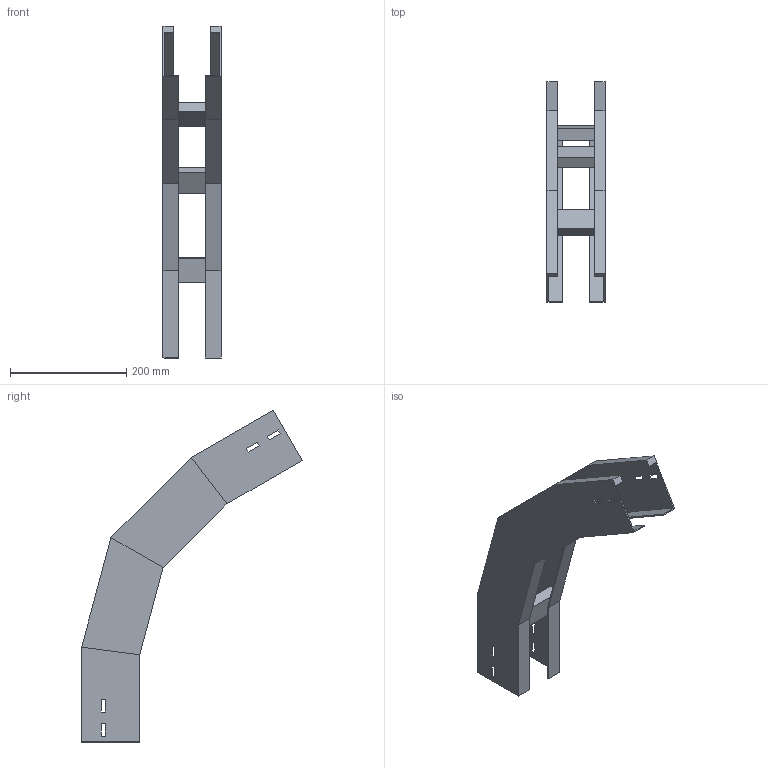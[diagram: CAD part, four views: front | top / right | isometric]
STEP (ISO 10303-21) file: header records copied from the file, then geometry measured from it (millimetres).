
FILE_DESCRIPTION (( 'STEP AP214' ), '1' );
FILE_NAME ('A2_41B3D100.step', '2025-02-21T14:56:27', ( '' ), ( '' ), 'SwSTEP 2.0', 'SolidWorks 2023', '' );
FILE_SCHEMA (( 'AUTOMOTIVE_DESIGN' ));
Length unit declared in the file: millimetre
Products named in the file (3): TRAVERSINO_100; LONGH.DISCESA_60°_H100_R300; A2_41B3D100
Assembly tree (5 placements, depth 2):
  A2_41B3D100
    LONGH.DISCESA_60°_H100_R300  x2
    TRAVERSINO_100  x3
Bounding box: 100 x 379.62 x 570.92 mm (x, y, z)
Volume: 829764.7 mm3; surface area: 417033.5 mm2
Topology: 5 solids, 5 shells, 118 faces, 276 edges, 168 vertices
Faces by surface type: plane 118
Entity records: 1672 total; most frequent: CARTESIAN_POINT 276, ORIENTED_EDGE 264, DIRECTION 260, EDGE_CURVE 132, VECTOR 132, LINE 132, VERTEX_POINT 80, EDGE_LOOP 64
